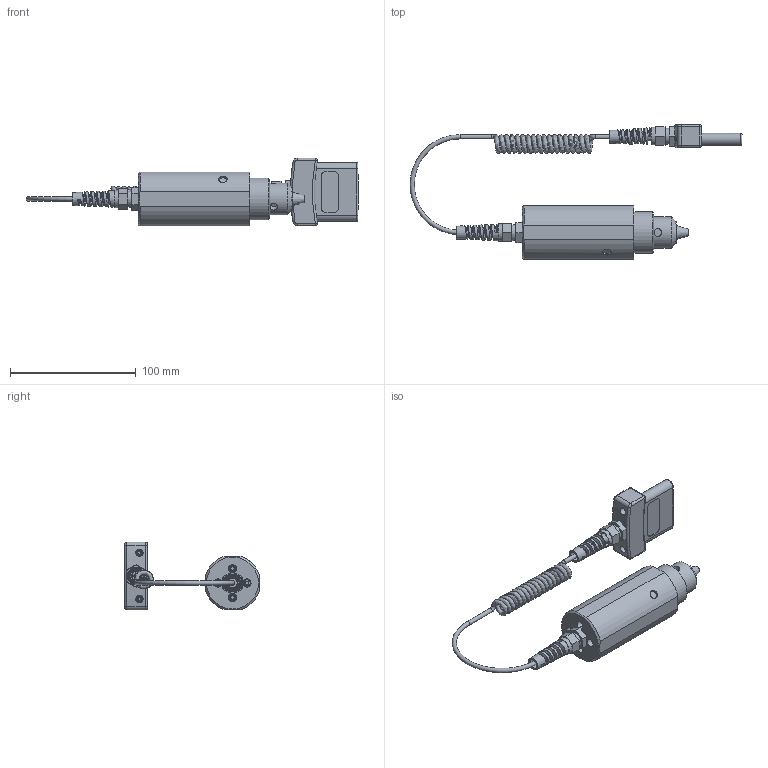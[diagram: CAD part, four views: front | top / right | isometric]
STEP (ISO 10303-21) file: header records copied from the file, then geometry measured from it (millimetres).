
FILE_DESCRIPTION(/* description */ (''),/* implementation_level */ '2;1');
FILE_NAME(/* name */ 'F:\CAD files\Itr\3D MARKETING MODELS\TORQUE SENSORS\MR50\MR50_10Z_20Z_50Z.stp',/* time_stamp */ '2018-06-21T10:08:26-04:00',/* author */ ('mlampen'),/* organization */ (''),/* preprocessor_version */ 'ST-DEVELOPER v17',/* originating_system */ 'AutoCAD Mechanical',/* authorisation */ '');
FILE_SCHEMA (('AUTOMOTIVE_DESIGN { 1 0 10303 214 3 1 1 }'));
Products named in the file (1): Product
Bounding box: 264.24 x 107.35 x 54.05 mm (x, y, z)
Volume: 203886.9 mm3; surface area: 47123.8 mm2
Topology: 2 solids, 4 shells, 579 faces, 1491 edges, 960 vertices
Faces by surface type: plane 196, bspline 152, cylinder 124, cone 87, torus 16, sphere 4
Full cylindrical faces by diameter (mm): 2.02 x12, 2.845 x12, 3.175 x2, 3.429 x4, 4.648 x2, 5.74 x4, 5.842 x2, 6.096 x3, 6.604 x4, 6.756 x1, 7.62 x10, 11.176 x2, 12.7 x2, 25.4 x1, 33.274 x1
Entity records: 35908 total; most frequent: CARTESIAN_POINT 23274, ORIENTED_EDGE 2974, DIRECTION 2117, EDGE_CURVE 1487, VERTEX_POINT 960, AXIS2_PLACEMENT_3D 831, EDGE_LOOP 631, FACE_OUTER_BOUND 579
